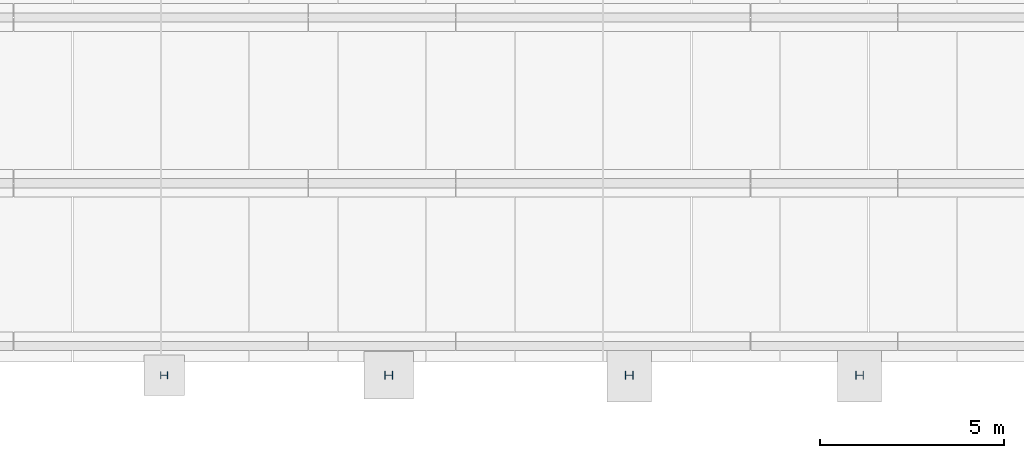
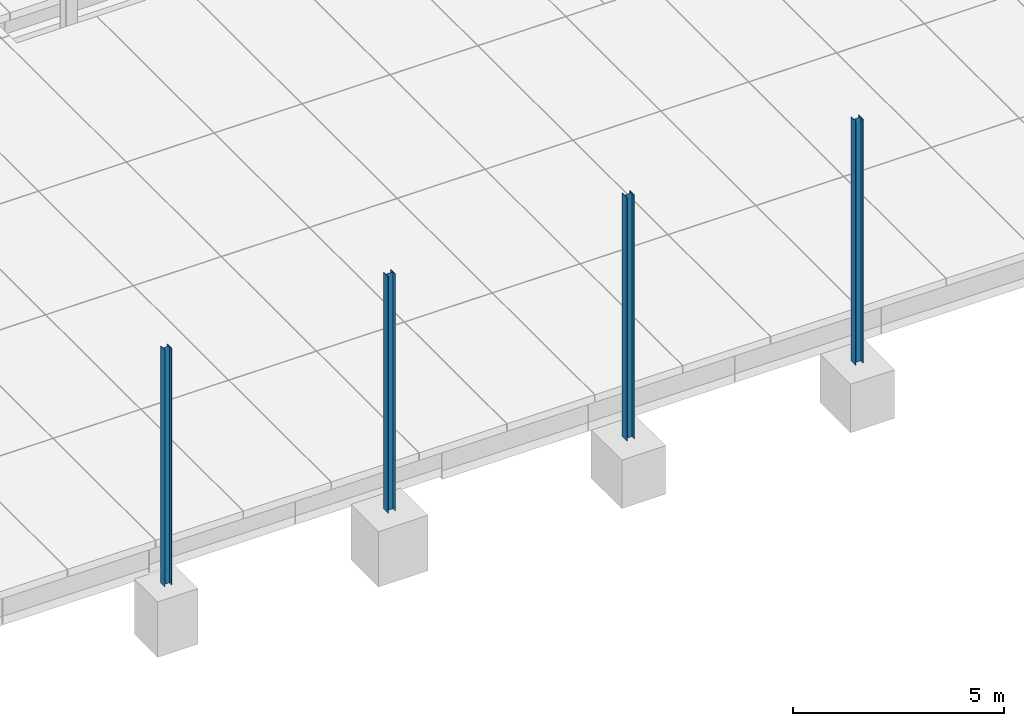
# One storey, part 21 of 59: 4 columns.
"""IFC2X3 building model written with IfcOpenShell, lengths in metres."""

from ifc_helpers import new_model, entity, si_unit, converted_unit, derived_unit, frame, origin, origin_with_axes, place, context, subcontext, project, spatial, polyline, outline, extrude, material, element, save


model = new_model("IFC2X3")

# Units and contexts
model_context = context("Model", 3, precision=1e-05, world=origin())
body_context = subcontext(model_context, "Body", "Model", "MODEL_VIEW")
ifc_project = project(units=[si_unit("LENGTHUNIT", "METRE"), si_unit("AREAUNIT", "SQUARE_METRE"), si_unit("VOLUMEUNIT", "CUBIC_METRE"), si_unit("MASSUNIT", "GRAM", prefix="KILO"), converted_unit("PLANEANGLEUNIT", "DEGREE", entity("IfcPlaneAngleMeasure", 0.0174532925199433), si_unit("PLANEANGLEUNIT", "RADIAN"), dimensions=[0, 0, 0, 0, 0, 0, 0]), derived_unit("THERMALTRANSMITTANCEUNIT", [(si_unit("POWERUNIT", "WATT"), 1), (si_unit("THERMODYNAMICTEMPERATUREUNIT", "KELVIN"), -1), (si_unit("LENGTHUNIT", "METRE"), -2)]), derived_unit("VOLUMETRICFLOWRATEUNIT", [(si_unit("LENGTHUNIT", "METRE"), 3), (converted_unit("TIMEUNIT", "hour", entity("IfcTimeMeasure", 3600.0), si_unit("TIMEUNIT", "SECOND"), dimensions=[0, 0, 1, 0, 0, 0, 0]), -1), (si_unit("LENGTHUNIT", "METRE"), -1)])], contexts=[model_context])

# Site, building, storey
site_placement = place(None, origin())
site = spatial("IfcSite", under=ifc_project, at=site_placement, Name="TWP_Speiseverteilzentrum SBW VZ II", CompositionType="ELEMENT")
building_placement = place(site_placement, origin())
building = spatial("IfcBuilding", under=site, at=building_placement, Name="Speiseverteilzentrum SBW VZ II", CompositionType="ELEMENT")
storey_placement = place(building_placement, frame((0.0, 0.0, 1.7307)))
storey = spatial("IfcBuildingStorey", under=building, at=storey_placement, Name="EG_Produktion_FFB", CompositionType="ELEMENT", Elevation=1.7307)

# Columns
ifc_material_1 = material(Name="S235")
column_1_placement = place(storey_placement, frame((33.5800000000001, 10.5901485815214, -1.32)))
element("IfcColumn", 1, at=column_1_placement, inside=storey, material=ifc_material_1, Name="Stahlstütze", context=body_context, shape_type="SweptSolid", body=[
    extrude(outline(polyline([(0.19, 0.0), (0.19, 0.200000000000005), (0.18, 0.200000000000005), (0.18, 0.103250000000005), (0.01, 0.103250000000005), (0.00999999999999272, 0.200000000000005), (0.0, 0.200000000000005), (0.0, 0.0), (0.01, 0.0), (0.01, 0.0967500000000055), (0.18, 0.0967500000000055), (0.18, 0.0), (0.19, 0.0)])), origin_with_axes(), (0.0, 0.0, 1.0), 6.8393),
])
ifc_material_2 = material(Name="S235")
column_2_placement = place(storey_placement, frame((39.67, 10.5801485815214, -1.32)))
element("IfcColumn", 2, at=column_2_placement, inside=storey, material=ifc_material_2, Name="Stahlstütze", context=body_context, shape_type="SweptSolid", body=[
    extrude(outline(polyline([(0.21, 0.0), (0.21, 0.220000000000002), (0.199, 0.220000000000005), (0.199, 0.1135), (0.011, 0.113500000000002), (0.011, 0.220000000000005), (0.0, 0.220000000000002), (0.0, 0.0), (0.0110000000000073, 0.0), (0.011, 0.106500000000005), (0.199, 0.106500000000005), (0.199, 0.0), (0.21, 0.0)])), origin_with_axes(), (0.0, 0.0, 1.0), 6.8393),
])
ifc_material_3 = material(Name="S235")
column_3_placement = place(storey_placement, frame((46.1950000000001, 10.5801485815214, -1.52)))
element("IfcColumn", 3, at=column_3_placement, inside=storey, material=ifc_material_3, Name="Stahlstütze", context=body_context, shape_type="SweptSolid", body=[
    extrude(outline(polyline([(0.21, 0.0), (0.21, 0.22), (0.199, 0.220000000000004), (0.199, 0.1135), (0.011, 0.113500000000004), (0.011, 0.220000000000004), (0.0, 0.22), (0.0, 0.0), (0.011, 0.0), (0.011, 0.106500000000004), (0.199, 0.106500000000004), (0.199, 0.0), (0.21, 0.0)])), origin_with_axes(), (0.0, 0.0, 1.0), 7.0393),
])
ifc_material_4 = material(Name="S235")
column_4_placement = place(storey_placement, frame((52.4450000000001, 10.5801485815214, -1.52)))
element("IfcColumn", 4, at=column_4_placement, inside=storey, material=ifc_material_4, Name="Stahlstütze", context=body_context, shape_type="SweptSolid", body=[
    extrude(outline(polyline([(0.21, 0.0), (0.21, 0.22), (0.199, 0.22), (0.199, 0.1135), (0.011, 0.1135), (0.011, 0.22), (0.0, 0.22), (0.0, 0.0), (0.011, 0.0), (0.011, 0.1065), (0.199, 0.1065), (0.199, 0.0), (0.21, 0.0)])), origin_with_axes(), (0.0, 0.0, 1.0), 7.0393),
])

save(model, "model.ifc")
